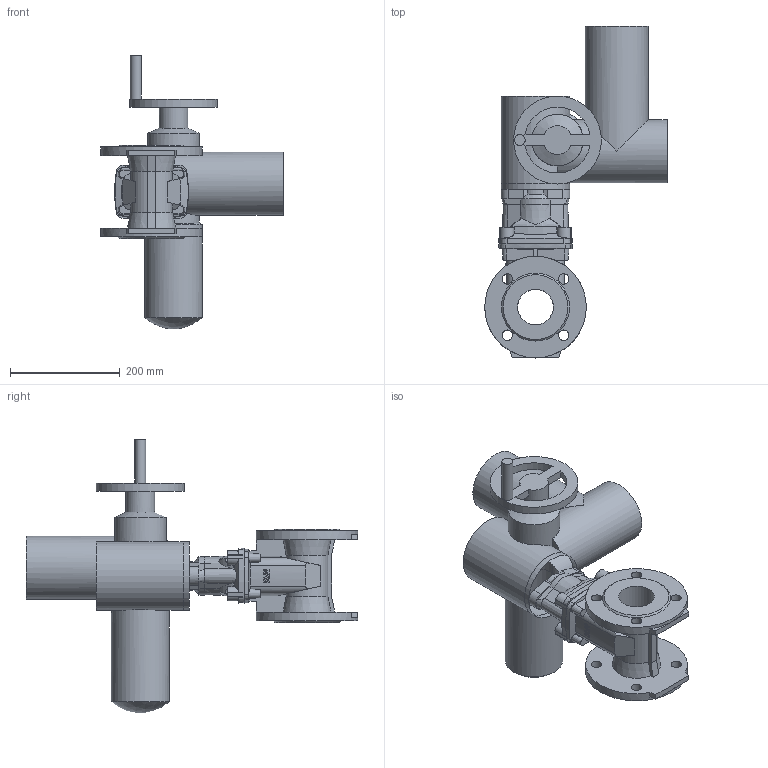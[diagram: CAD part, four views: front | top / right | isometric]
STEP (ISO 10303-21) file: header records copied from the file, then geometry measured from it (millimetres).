
FILE_DESCRIPTION (( 'STEP AP203' ), '1' );
FILE_NAME ('O_15_42_DN065_X1X_SA07.6_AA0.step', '2017-03-20T12:31:22', ( 'Windows User' ), ( 'AVK' ), 'SwSTEP 2.0', 'SolidWorks 2012', '' );
FILE_SCHEMA (( 'CONFIG_CONTROL_DESIGN' ));
Length unit declared in the file: inch
Products named in the file (1): O_15_42_DN065_X1X_SA07.6_AA0
Bounding box: 332.5 x 604.5 x 498.55 mm (x, y, z)
Volume: 10627365.9 mm3; surface area: 604758.9 mm2
Topology: 1 solids, 1 shells, 288 faces, 802 edges, 523 vertices
Faces by surface type: plane 104, cylinder 65, cone 58, bspline 54, torus 6, sphere 1
Full cylindrical faces by diameter (mm): 19 x8, 20 x1, 52.112 x1, 65 x1, 93.905 x1, 105 x1, 115 x2, 125 x2, 160 x1, 185 x2
Entity records: 10787 total; most frequent: CARTESIAN_POINT 4191, ORIENTED_EDGE 1514, DIRECTION 1102, EDGE_CURVE 757, VERTEX_POINT 503, AXIS2_PLACEMENT_3D 452, EDGE_LOOP 340, B_SPLINE_CURVE_WITH_KNOTS 317
